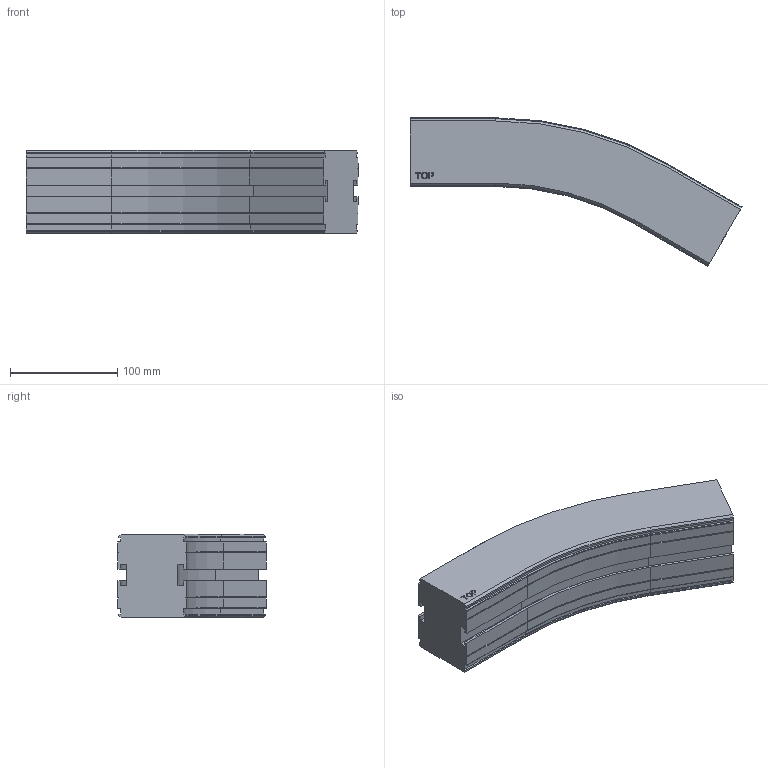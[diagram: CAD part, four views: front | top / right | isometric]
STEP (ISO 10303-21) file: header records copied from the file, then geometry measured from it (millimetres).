
FILE_DESCRIPTION((''),'2;1');
FILE_NAME('C:\Vault Klient\Projekt\Koncept konstruktion\Serie 620 Balk\620-5190.stp','2009-11-26T14:48:43',('Mathias'),(''),'Autodesk Inventor 2010','Autodesk Inventor 2010','');
FILE_SCHEMA(('AUTOMOTIVE_DESIGN { 1 0 10303 214 1 1 1 1 }'));
Length unit declared in the file: millimetre
Products named in the file (1): 620-5190
Bounding box: 309.78 x 138.43 x 78 mm (x, y, z)
Volume: 1447770.8 mm3; surface area: 121544.1 mm2
Topology: 1 solids, 1 shells, 169 faces, 446 edges, 284 vertices
Faces by surface type: plane 109, cylinder 30, bspline 14, cone 12, torus 4
Entity records: 5295 total; most frequent: CARTESIAN_POINT 1094, ORIENTED_EDGE 892, DIRECTION 802, EDGE_CURVE 446, VECTOR 346, LINE 346, VERTEX_POINT 284, AXIS2_PLACEMENT_3D 228
